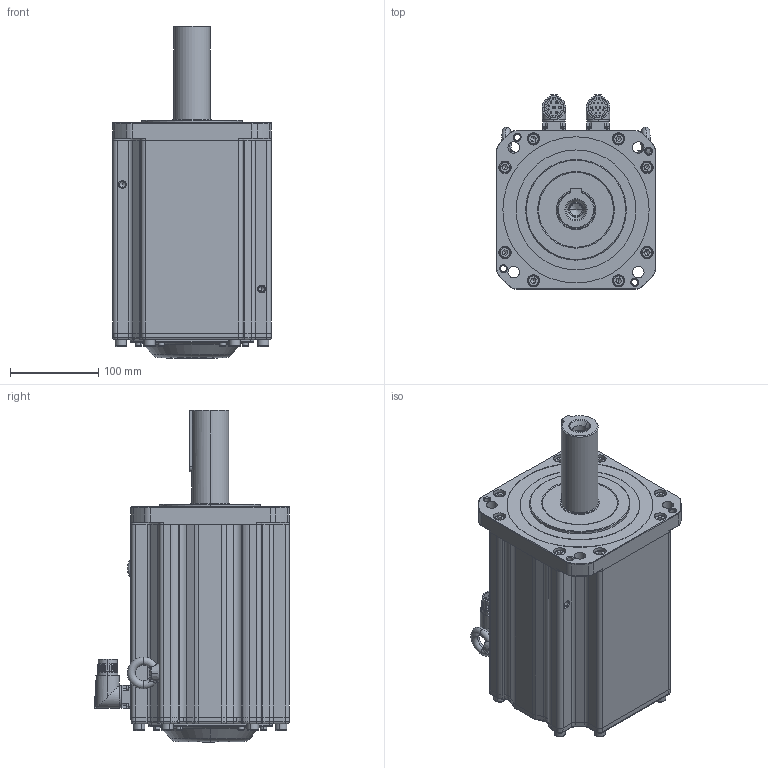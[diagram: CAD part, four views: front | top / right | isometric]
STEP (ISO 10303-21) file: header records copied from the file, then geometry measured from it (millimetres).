
FILE_DESCRIPTION (( 'STEP AP203' ), '1' );
FILE_NAME ('MC20-180-3M15-N752-0¡õPK-NNNN.STEP', '2025-05-05T03:30:52', ( '' ), ( '' ), 'SwSTEP 2.0', 'SolidWorks 2014', '' );
FILE_SCHEMA (( 'CONFIG_CONTROL_DESIGN' ));
Length unit declared in the file: millimetre
Products named in the file (1): MC20-180-3M15-N752-0¡õPK-NNNN
Bounding box: 180 x 221.35 x 376.95 mm (x, y, z)
Volume: 4441316.7 mm3; surface area: 607045.6 mm2
Topology: 40 solids, 42 shells, 2190 faces, 5098 edges, 3031 vertices
Faces by surface type: plane 883, cylinder 569, cone 483, torus 208, bspline 47
Entity records: 63892 total; most frequent: CARTESIAN_POINT 13748, DIRECTION 11030, ORIENTED_EDGE 9944, EDGE_CURVE 4972, AXIS2_PLACEMENT_3D 4270, VERTEX_POINT 3031, LINE 2490, VECTOR 2490
